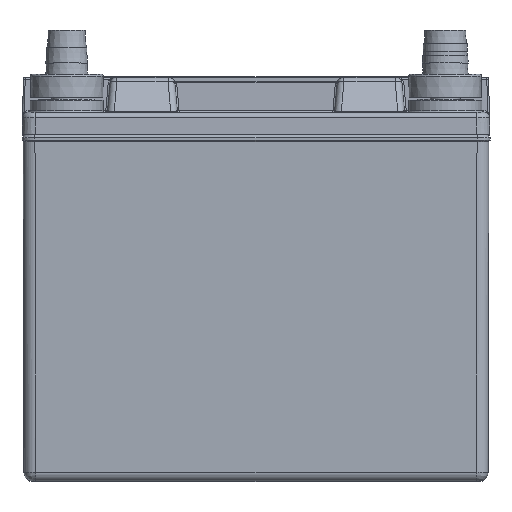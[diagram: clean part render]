
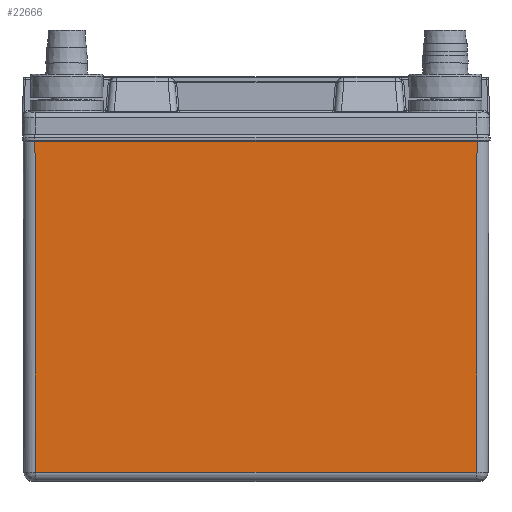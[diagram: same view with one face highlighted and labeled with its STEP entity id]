
A CAD part, top view. The second image highlights one B-rep face of the part: STEP entity #22666.
In plain terms, the highlighted planar face has unit normal (0, -0.004, 1).
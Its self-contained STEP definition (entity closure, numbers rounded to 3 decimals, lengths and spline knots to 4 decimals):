
#1815 = DIRECTION ( 'NONE',  ( 1., 0., 0. ) ) ;
#4127 = CARTESIAN_POINT ( 'NONE',  ( 3.841, -5.5917, 3.1982 ) ) ;
#4489 = EDGE_CURVE ( 'NONE', #125318, #56079, #74255, .T. ) ;
#7713 = VERTEX_POINT ( 'NONE', #28088 ) ;
#21055 = AXIS2_PLACEMENT_3D ( 'NONE', #52610, #66801, #150964 ) ;
#22492 = CARTESIAN_POINT ( 'NONE',  ( 3.841, -0.119, 3.222 ) ) ;
#22666 = ADVANCED_FACE ( 'NONE', ( #126601 ), #100668, .T. ) ;
#28088 = CARTESIAN_POINT ( 'NONE',  ( 3.6583, -0.119, 3.222 ) ) ;
#37432 = EDGE_CURVE ( 'NONE', #7713, #125902, #96429, .T. ) ;
#40525 = VECTOR ( 'NONE', #60948, 39.3701 ) ;
#42453 = CARTESIAN_POINT ( 'NONE',  ( -3.646, -5.7573, 3.1974 ) ) ;
#43815 = ORIENTED_EDGE ( 'NONE', *, *, #37432, .T. ) ;
#44740 = CARTESIAN_POINT ( 'NONE',  ( 3.646, -5.7406, 3.1975 ) ) ;
#49617 = EDGE_LOOP ( 'NONE', ( #43815, #57552, #128219, #146592 ) ) ;
#52610 = CARTESIAN_POINT ( 'NONE',  ( 3.841, -5.741, 3.1975 ) ) ;
#56079 = VERTEX_POINT ( 'NONE', #61644 ) ;
#57552 = ORIENTED_EDGE ( 'NONE', *, *, #96206, .T. ) ;
#60948 = DIRECTION ( 'NONE',  ( -1., 0., 0. ) ) ;
#61644 = CARTESIAN_POINT ( 'NONE',  ( 3.6463, -5.5917, 3.1982 ) ) ;
#66801 = DIRECTION ( 'NONE',  ( 0., -0.004, 1. ) ) ;
#70700 = DIRECTION ( 'NONE',  ( 0.002, 1., 0.004 ) ) ;
#74255 = LINE ( 'NONE', #4127, #140157 ) ;
#81454 = VECTOR ( 'NONE', #125084, 39.3701 ) ;
#82498 = LINE ( 'NONE', #44740, #89193 ) ;
#89193 = VECTOR ( 'NONE', #70700, 39.3701 ) ;
#96206 = EDGE_CURVE ( 'NONE', #125902, #125318, #150226, .T. ) ;
#96429 = LINE ( 'NONE', #22492, #40525 ) ;
#100668 = PLANE ( 'NONE',  #21055 ) ;
#122553 = EDGE_CURVE ( 'NONE', #56079, #7713, #82498, .T. ) ;
#125084 = DIRECTION ( 'NONE',  ( 0.002, -1., -0.004 ) ) ;
#125318 = VERTEX_POINT ( 'NONE', #140823 ) ;
#125902 = VERTEX_POINT ( 'NONE', #138022 ) ;
#126601 = FACE_OUTER_BOUND ( 'NONE', #49617, .T. ) ;
#128219 = ORIENTED_EDGE ( 'NONE', *, *, #4489, .T. ) ;
#138022 = CARTESIAN_POINT ( 'NONE',  ( -3.6583, -0.119, 3.222 ) ) ;
#140157 = VECTOR ( 'NONE', #1815, 39.3701 ) ;
#140823 = CARTESIAN_POINT ( 'NONE',  ( -3.6463, -5.5917, 3.1982 ) ) ;
#146592 = ORIENTED_EDGE ( 'NONE', *, *, #122553, .T. ) ;
#150226 = LINE ( 'NONE', #42453, #81454 ) ;
#150964 = DIRECTION ( 'NONE',  ( 0., 1., 0.004 ) ) ;
